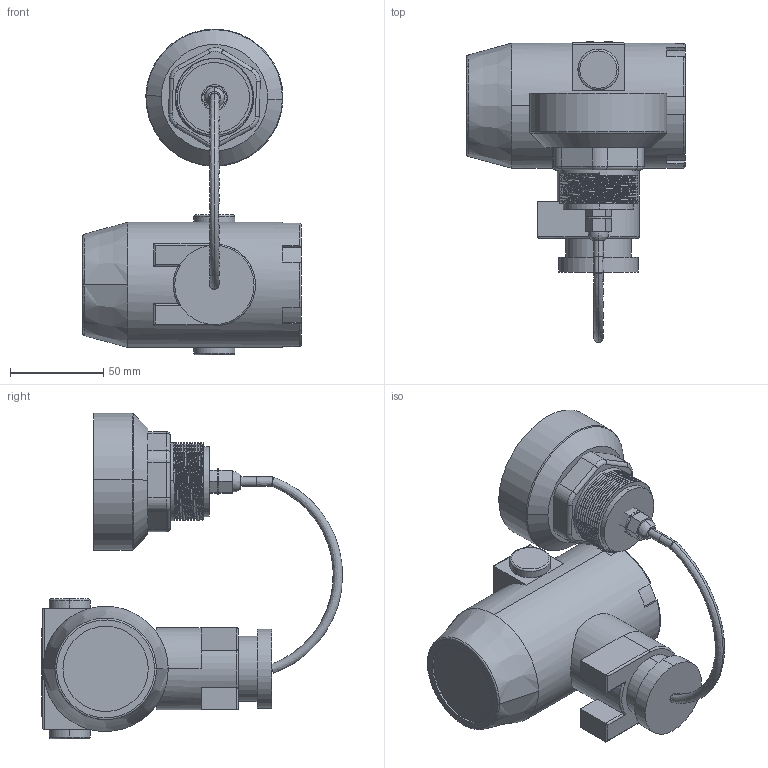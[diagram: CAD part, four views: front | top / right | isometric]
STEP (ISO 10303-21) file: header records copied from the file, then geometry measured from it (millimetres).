
FILE_DESCRIPTION((''),'2;1');
FILE_NAME('ASM0014_ASM','2025-12-29T11:33:55',('28740194'),(''),'CREO PARAMETRIC BY PTC INC, 2024063','CREO PARAMETRIC BY PTC INC, 2024063','');
FILE_SCHEMA(('CONFIG_CONTROL_DESIGN'));
Length unit declared in the file: millimetre
Products named in the file (5): 0003; KUS630; 000; KUS63000_ASM; ASM0014_ASM
Assembly tree (4 placements, depth 3):
  ASM0014_ASM
    0003
    KUS63000_ASM
      KUS630
      000
Bounding box: 117 x 161.32 x 174.55 mm (x, y, z)
Volume: 673177.4 mm3; surface area: 67043.1 mm2
Topology: 3 solids, 3 shells, 844 faces, 2332 edges, 1531 vertices
Faces by surface type: plane 729, cylinder 71, torus 20, bspline 20, cone 4
Entity records: 31196 total; most frequent: CARTESIAN_POINT 9671, ORIENTED_EDGE 4664, DIRECTION 4053, EDGE_CURVE 2332, VECTOR 2067, LINE 2067, VERTEX_POINT 1531, AXIS2_PLACEMENT_3D 993
